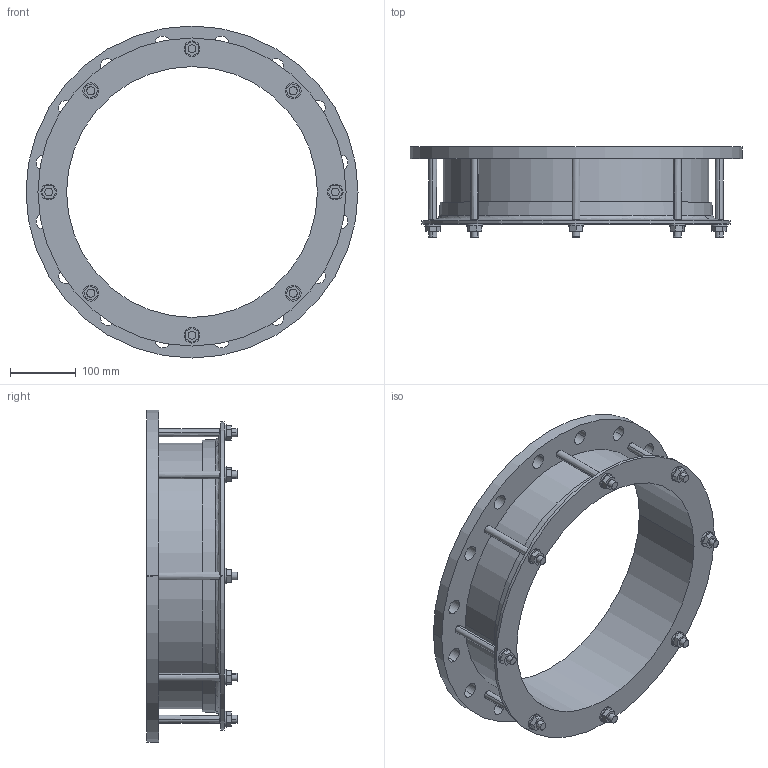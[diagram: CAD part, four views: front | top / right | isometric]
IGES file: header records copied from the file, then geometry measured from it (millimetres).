
Start section:  PTC IGES file: 378x350pn10.igs
Global section: file name: 378x350pn10.igs; native system: Creo Parametric by PTC Inc.; preprocessor: 2016130; author: mfairey; organization: Unknown; date: 20190116.094626; units: millimetre
Bounding box: 505 x 137.45 x 505 mm (x, y, z)
Surface area: 592699.9 mm2 (no closed solid volume)
Topology: 0 solids, 0 shells, 170 faces, 892 edges, 892 vertices
Faces by surface type: revolution 94, bspline 76
